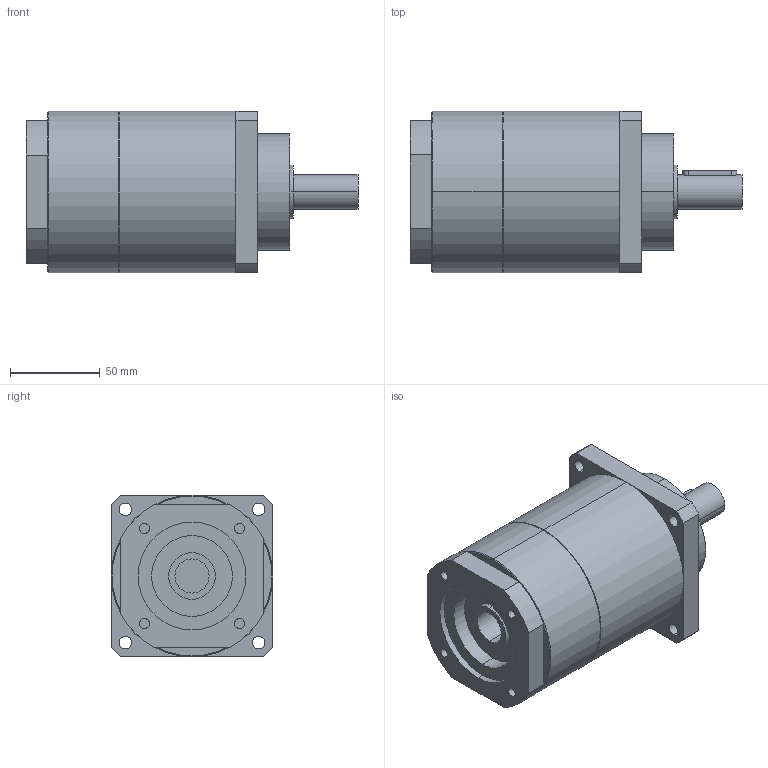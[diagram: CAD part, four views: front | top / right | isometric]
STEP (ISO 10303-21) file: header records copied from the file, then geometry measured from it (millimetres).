
FILE_DESCRIPTION(('CoCreate Modeling STEP Export'),'2;1');
FILE_NAME('GPT90_ig-9-12-16-20-25-28-35-40-50-70-100_19_B5T_19_P03.stp','2015-02-04T11:32:48',(''),(''),'CoCreate Modeling STEP processor for AP214 (Solid Model)','CoCreate Modeling 16.00C 25-Feb-2009 (C) Parametric Technology GmbH','');
FILE_SCHEMA(('AUTOMOTIVE_DESIGN { 1 0 10303 214 1 1 1 1 }'));
Length unit declared in the file: millimetre
Products named in the file (2): GPT90_ig-9-12-16-20-25-28-35-40-50-70-100_19_B5T_19_P03
Assembly tree (1 placements, depth 2):
  GPT90_ig-9-12-16-20-25-28-35-40-50-70-100_19_B5T_19_P03
    GPT90_ig-9-12-16-20-25-28-35-40-50-70-100_19_B5T_19_P03
Bounding box: 185 x 90 x 90 mm (x, y, z)
Volume: 870750.1 mm3; surface area: 65775.9 mm2
Topology: 1 solids, 1 shells, 88 faces, 221 edges, 148 vertices
Faces by surface type: cylinder 46, plane 38, cone 4
Entity records: 2699 total; most frequent: CARTESIAN_POINT 754, ORIENTED_EDGE 442, DIRECTION 330, EDGE_CURVE 221, VERTEX_POINT 148, AXIS2_PLACEMENT_3D 121, EDGE_LOOP 109, VECTOR 88
